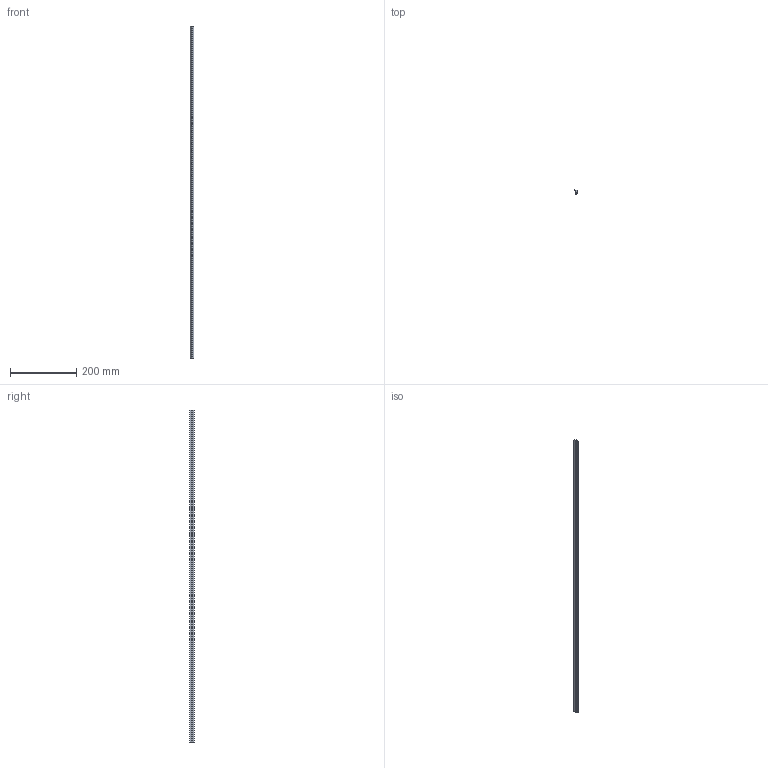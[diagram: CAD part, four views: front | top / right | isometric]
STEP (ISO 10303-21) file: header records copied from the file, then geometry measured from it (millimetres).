
FILE_DESCRIPTION (( 'STEP AP214' ), '1' );
FILE_NAME ('SF05003.step', '2024-12-03T16:29:50', ( '' ), ( '' ), 'SwSTEP 2.0', 'SolidWorks 2023', '' );
FILE_SCHEMA (( 'AUTOMOTIVE_DESIGN' ));
Length unit declared in the file: millimetre
Products named in the file (1): SF05003
Bounding box: 10.34 x 12.61 x 1000 mm (x, y, z)
Volume: 54487.7 mm3; surface area: 44022 mm2
Topology: 1 solids, 1 shells, 24 faces, 66 edges, 44 vertices
Faces by surface type: plane 13, cylinder 11
Entity records: 795 total; most frequent: DIRECTION 138, CARTESIAN_POINT 135, ORIENTED_EDGE 132, EDGE_CURVE 66, AXIS2_PLACEMENT_3D 47, VECTOR 44, LINE 44, VERTEX_POINT 44
